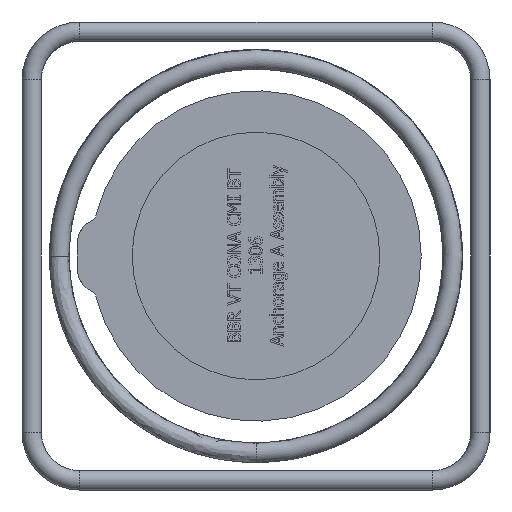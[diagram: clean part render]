
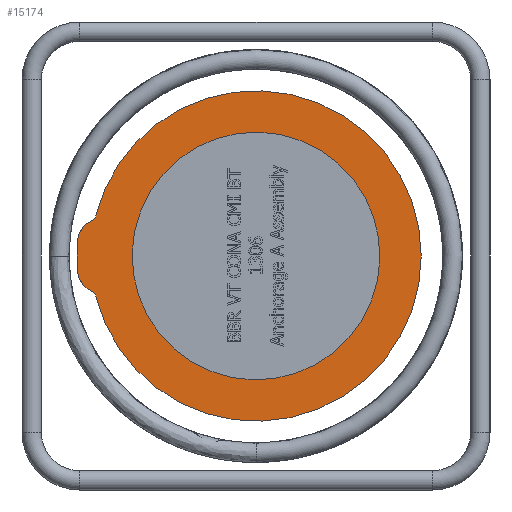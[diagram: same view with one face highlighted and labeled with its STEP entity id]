
A CAD part, left-side view. The second image highlights one B-rep face of the part: STEP entity #15174.
In plain terms, the highlighted planar face has unit normal (-1, 0, 0).
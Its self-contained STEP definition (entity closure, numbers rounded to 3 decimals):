
#105=FACE_BOUND('',#5220,.T.);
#749=PLANE('',#15769);
#4356=FACE_OUTER_BOUND('',#5219,.T.);
#5219=EDGE_LOOP('',(#12757,#12758,#12759,#12760,#12761,#12762,#12763,#12764));
#5220=EDGE_LOOP('',(#12765));
#5448=CIRCLE('',#15764,90.);
#5452=CIRCLE('',#15770,2.);
#5453=CIRCLE('',#15771,19.);
#5454=CIRCLE('',#15772,5.);
#5455=CIRCLE('',#15773,120.);
#5456=CIRCLE('',#15774,5.);
#5457=CIRCLE('',#15775,19.);
#5458=CIRCLE('',#15776,2.);
#5459=CIRCLE('',#15777,130.);
#6906=VERTEX_POINT('',#30602);
#6912=VERTEX_POINT('',#30637);
#6913=VERTEX_POINT('',#30638);
#6914=VERTEX_POINT('',#30640);
#6915=VERTEX_POINT('',#30642);
#6916=VERTEX_POINT('',#30644);
#6917=VERTEX_POINT('',#30646);
#6918=VERTEX_POINT('',#30648);
#6919=VERTEX_POINT('',#30650);
#8887=EDGE_CURVE('',#6906,#6906,#5448,.T.);
#8894=EDGE_CURVE('',#6912,#6913,#5452,.T.);
#8895=EDGE_CURVE('',#6914,#6912,#5453,.T.);
#8896=EDGE_CURVE('',#6915,#6914,#5454,.T.);
#8897=EDGE_CURVE('',#6916,#6915,#5455,.T.);
#8898=EDGE_CURVE('',#6917,#6916,#5456,.T.);
#8899=EDGE_CURVE('',#6918,#6917,#5457,.T.);
#8900=EDGE_CURVE('',#6919,#6918,#5458,.T.);
#8901=EDGE_CURVE('',#6919,#6913,#5459,.T.);
#12757=ORIENTED_EDGE('',*,*,#8894,.F.);
#12758=ORIENTED_EDGE('',*,*,#8895,.F.);
#12759=ORIENTED_EDGE('',*,*,#8896,.F.);
#12760=ORIENTED_EDGE('',*,*,#8897,.F.);
#12761=ORIENTED_EDGE('',*,*,#8898,.F.);
#12762=ORIENTED_EDGE('',*,*,#8899,.F.);
#12763=ORIENTED_EDGE('',*,*,#8900,.F.);
#12764=ORIENTED_EDGE('',*,*,#8901,.T.);
#12765=ORIENTED_EDGE('',*,*,#8887,.T.);
#15174=ADVANCED_FACE('',(#4356,#105),#749,.T.);
#15764=AXIS2_PLACEMENT_3D('',#30603,#18074,#18075);
#15769=AXIS2_PLACEMENT_3D('',#30636,#18085,#18086);
#15770=AXIS2_PLACEMENT_3D('',#30639,#18087,#18088);
#15771=AXIS2_PLACEMENT_3D('',#30641,#18089,#18090);
#15772=AXIS2_PLACEMENT_3D('',#30643,#18091,#18092);
#15773=AXIS2_PLACEMENT_3D('',#30645,#18093,#18094);
#15774=AXIS2_PLACEMENT_3D('',#30647,#18095,#18096);
#15775=AXIS2_PLACEMENT_3D('',#30649,#18097,#18098);
#15776=AXIS2_PLACEMENT_3D('',#30651,#18099,#18100);
#15777=AXIS2_PLACEMENT_3D('',#30652,#18101,#18102);
#18074=DIRECTION('center_axis',(1.,0.,0.));
#18075=DIRECTION('ref_axis',(0.,-0.197,0.98));
#18085=DIRECTION('center_axis',(-1.,0.,0.));
#18086=DIRECTION('ref_axis',(0.,0.,1.));
#18087=DIRECTION('center_axis',(1.,0.,0.));
#18088=DIRECTION('ref_axis',(0.,0.981,-0.196));
#18089=DIRECTION('center_axis',(1.,0.,0.));
#18090=DIRECTION('ref_axis',(0.,0.737,-0.676));
#18091=DIRECTION('center_axis',(-1.,0.,0.));
#18092=DIRECTION('ref_axis',(0.,-0.773,0.634));
#18093=DIRECTION('center_axis',(1.,0.,0.));
#18094=DIRECTION('ref_axis',(0.,-1.,0.));
#18095=DIRECTION('center_axis',(-1.,0.,0.));
#18096=DIRECTION('ref_axis',(0.,-0.773,-0.634));
#18097=DIRECTION('center_axis',(1.,0.,0.));
#18098=DIRECTION('ref_axis',(0.,0.737,0.676));
#18099=DIRECTION('center_axis',(1.,0.,0.));
#18100=DIRECTION('ref_axis',(0.,0.981,0.196));
#18101=DIRECTION('center_axis',(-1.,0.,0.));
#18102=DIRECTION('ref_axis',(0.,1.,0.));
#30602=CARTESIAN_POINT('',(-126.129,17.689,-88.244));
#30603=CARTESIAN_POINT('Origin',(-126.129,0.,
0.));
#30636=CARTESIAN_POINT('Origin',(-126.129,-95.5,0.));
#30637=CARTESIAN_POINT('',(-126.129,129.209,-14.016));
#30638=CARTESIAN_POINT('',(-126.129,129.281,-13.655));
#30639=CARTESIAN_POINT('Origin',(-126.129,127.292,-13.445));
#30640=CARTESIAN_POINT('',(-126.129,119.136,-25.759));
#30641=CARTESIAN_POINT('Origin',(-126.129,111.,-8.59));
#30642=CARTESIAN_POINT('',(-126.129,116.427,-29.067));
#30643=CARTESIAN_POINT('Origin',(-126.129,121.278,-30.278));
#30644=CARTESIAN_POINT('',(-126.129,116.427,29.067));
#30645=CARTESIAN_POINT('Origin',(-126.129,0.,
0.));
#30646=CARTESIAN_POINT('',(-126.129,119.136,25.759));
#30647=CARTESIAN_POINT('Origin',(-126.129,121.278,30.278));
#30648=CARTESIAN_POINT('',(-126.129,129.209,14.016));
#30649=CARTESIAN_POINT('Origin',(-126.129,111.,8.59));
#30650=CARTESIAN_POINT('',(-126.129,129.281,13.655));
#30651=CARTESIAN_POINT('Origin',(-126.129,127.292,13.445));
#30652=CARTESIAN_POINT('Origin',(-126.129,0.,
0.));
